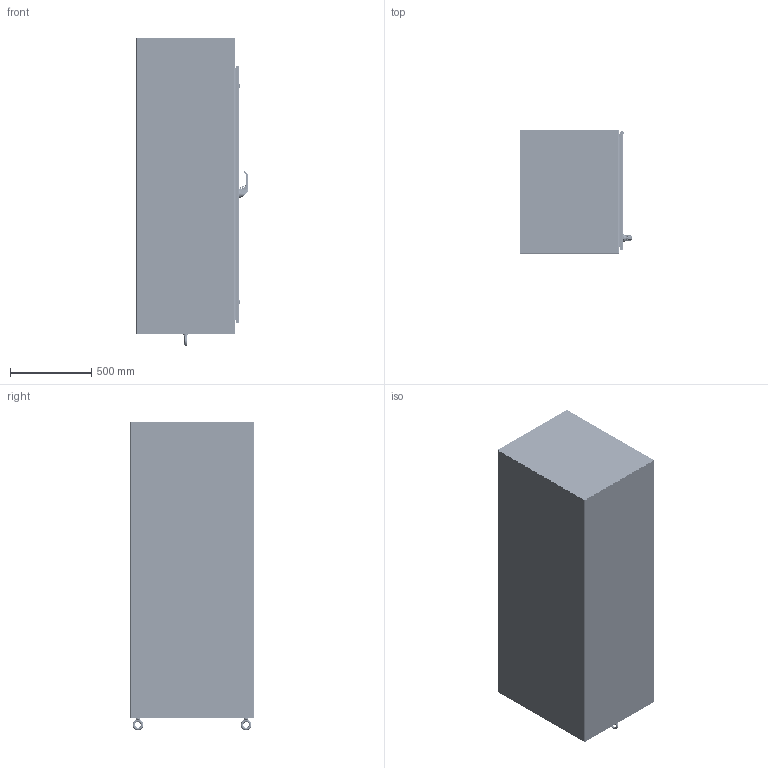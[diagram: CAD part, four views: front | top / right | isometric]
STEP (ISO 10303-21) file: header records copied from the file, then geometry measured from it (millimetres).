
FILE_DESCRIPTION((''),'2;1');
FILE_NAME('MODEL-237_ASM','2024-05-28T16:07:29',('mikek'),('SAGINAW CONTROL & ENGINEERING'),'CREO PARAMETRIC BY PTC INC, 2021284','CREO PARAMETRIC BY PTC INC, 2021284','');
FILE_SCHEMA(('AUTOMOTIVE_DESIGN { 1 0 10303 214 1 1 1 1 }'));
Length unit declared in the file: inch
Products named in the file (60): MODEL-237-L-SD; MODEL-237-TP; MODEL-237-R-SD; MODEL-237-BTM; MODEL-237-DR; 100837; 111267; 100882; 100955_SCREW_MTG; 100955_PADLOCK_CATCH; 100955_SCREW_LARGE; 100955_INSERT_SHAFT; 100955_INSERT_PKH; 100955_GASKET; 100955_O-RING; 100955_BASE; 100955_SPRING; 100955_HANDLE; 100955_CAM_SHAFT; 100955_HANDLE_ASM; 100955_CAM_ADAPTER; 100955_EARTH_NUT; 100955_FLANGE_NUT; 100955_CAM_NUT; 100955_KEY_INSERT; 100955_SPRING_CAM; 100955_TORSION_SPRING; 100955_SCREW_INSERT; 100955_ASM; 102237; 100030; 102237_ASM; MODEL-237-ROD-UPR; 128146; 128145; 128144; 102482; MODEL-237-ROD-UPR_ASM; 128143; 112504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
Assembly tree (103 placements, depth 5):
  MODEL-237_ASM
    MODEL-237-L-SD
    MODEL-237-TP
    MODEL-237-R-SD
    MODEL-237-BTM
    MODEL-237-DOOR-ASSY_ASM
      MODEL-237-DR
      100837  x5
      111267
      100882  x10
      100955_ASM
        100955_SCREW_MTG
        100955_PADLOCK_CATCH
        100955_SCREW_LARGE  x2
        100955_INSERT_SHAFT
        100955_INSERT_PKH
        100955_GASKET
        100955_O-RING
        100955_BASE
        100955_SPRING
        100955_HANDLE_ASM
          100955_HANDLE
          100955_CAM_SHAFT
        100955_CAM_ADAPTER
        100955_EARTH_NUT
        100955_FLANGE_NUT
        100955_CAM_NUT
        100955_KEY_INSERT
        100955_SPRING_CAM
        100955_TORSION_SPRING
        100955_SCREW_INSERT
      102237_ASM
        102237
        100030  x2
      MODEL-237-ROD-UPR_ASM
        MODEL-237-ROD-UPR
        128146
        128145
        128144
        102482  x2
      128143  x2
      112504  x2
      MODEL-237-ROD-LWR_ASM
        MODEL-237-ROD-LWR
        128146
        128145
        128144
        102482  x2
      MODEL-237-PR-GSKT
      128258_ASM  x3
        128258
      126395  x3
      102483  x3
      101383_ASM  x3
        101383
        101383-STUD
      101221  x3
    100837  x3
    MODEL-237-B42  x6
    MODEL-237-S-BRACE
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Bounding box: 687.85 x 762 x 1903.6 mm (x, y, z)
Volume: 18719137.9 mm3; surface area: 13963752.3 mm2
Topology: 107 solids, 107 shells, 10950 faces, 28207 edges, 17420 vertices
Faces by surface type: plane 3820, cylinder 2844, bspline 2578, torus 791, cone 625, sphere 262, extrusion 30
Entity records: 355707 total; most frequent: CARTESIAN_POINT 149158, ORIENTED_EDGE 32048, DIRECTION 28323, PRESENTATION_STYLE_ASSIGNMENT 16618, STYLED_ITEM 16613, CURVE_STYLE 16024, EDGE_CURVE 16024, AXIS2_PLACEMENT_3D 10518
